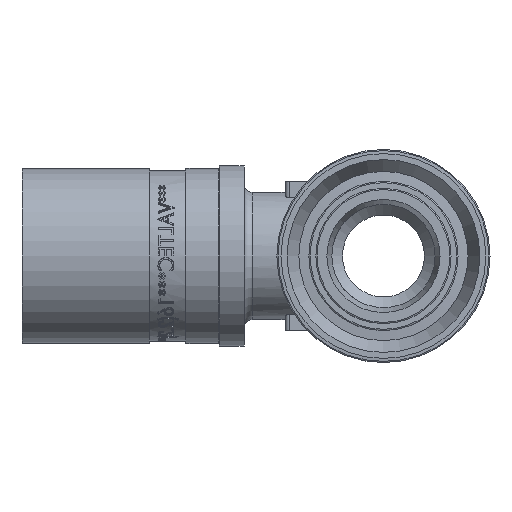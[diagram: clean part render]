
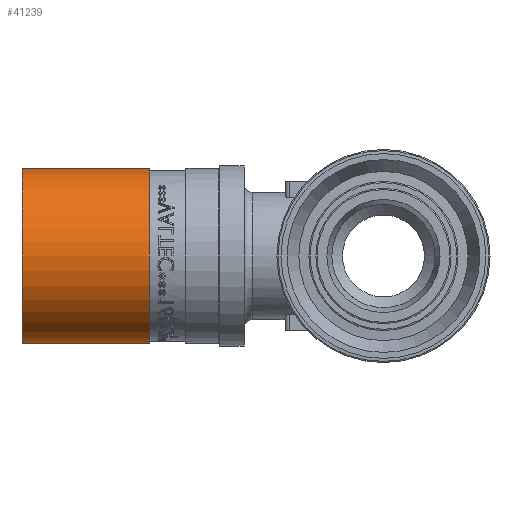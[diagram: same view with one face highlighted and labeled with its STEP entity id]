
A CAD part, left-side view. The second image highlights one B-rep face of the part: STEP entity #41239.
In plain terms, the highlighted cylindrical face has radius 10.7 mm (diameter 21.401 mm), a full revolution.
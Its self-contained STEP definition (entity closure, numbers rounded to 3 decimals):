
#392=CYLINDRICAL_SURFACE('',#43432,10.7);
#6013=FACE_OUTER_BOUND('',#8454,.T.);
#8454=EDGE_LOOP('',(#32923,#32924,#32925,#32926,#32927,#32928));
#11355=LINE('',#70645,#14285);
#14285=VECTOR('',#47857,10.7);
#16112=CIRCLE('',#43410,10.7);
#16113=CIRCLE('',#43411,10.7);
#16124=CIRCLE('',#43430,10.7);
#16125=CIRCLE('',#43431,10.7);
#18645=VERTEX_POINT('',#70603);
#18646=VERTEX_POINT('',#70604);
#18657=VERTEX_POINT('',#70640);
#18658=VERTEX_POINT('',#70641);
#23831=EDGE_CURVE('',#18645,#18646,#16112,.T.);
#23832=EDGE_CURVE('',#18646,#18645,#16113,.T.);
#23848=EDGE_CURVE('',#18657,#18658,#16124,.T.);
#23849=EDGE_CURVE('',#18658,#18657,#16125,.T.);
#23850=EDGE_CURVE('',#18646,#18658,#11355,.T.);
#32923=ORIENTED_EDGE('',*,*,#23831,.F.);
#32924=ORIENTED_EDGE('',*,*,#23832,.F.);
#32925=ORIENTED_EDGE('',*,*,#23850,.T.);
#32926=ORIENTED_EDGE('',*,*,#23849,.T.);
#32927=ORIENTED_EDGE('',*,*,#23848,.T.);
#32928=ORIENTED_EDGE('',*,*,#23850,.F.);
#41239=ADVANCED_FACE('',(#6013),#392,.T.);
#43410=AXIS2_PLACEMENT_3D('',#70605,#47806,#47807);
#43411=AXIS2_PLACEMENT_3D('',#70606,#47808,#47809);
#43430=AXIS2_PLACEMENT_3D('',#70642,#47851,#47852);
#43431=AXIS2_PLACEMENT_3D('',#70643,#47853,#47854);
#43432=AXIS2_PLACEMENT_3D('',#70644,#47855,#47856);
#47806=DIRECTION('center_axis',(0.,-1.,0.));
#47807=DIRECTION('ref_axis',(1.,0.,0.));
#47808=DIRECTION('center_axis',(0.,-1.,0.));
#47809=DIRECTION('ref_axis',(1.,0.,0.));
#47851=DIRECTION('center_axis',(0.,-1.,0.));
#47852=DIRECTION('ref_axis',(1.,0.,0.));
#47853=DIRECTION('center_axis',(0.,-1.,0.));
#47854=DIRECTION('ref_axis',(1.,0.,0.));
#47855=DIRECTION('center_axis',(0.,-1.,0.));
#47856=DIRECTION('ref_axis',(1.,0.,0.));
#47857=DIRECTION('',(0.,1.,0.));
#70603=CARTESIAN_POINT('',(10.7,28.6,0.));
#70604=CARTESIAN_POINT('',(-10.7,28.6,0.));
#70605=CARTESIAN_POINT('Origin',(0.,28.6,0.));
#70606=CARTESIAN_POINT('Origin',(0.,28.6,0.));
#70640=CARTESIAN_POINT('',(10.7,44.1,0.));
#70641=CARTESIAN_POINT('',(-10.7,44.1,0.));
#70642=CARTESIAN_POINT('Origin',(0.,44.1,0.));
#70643=CARTESIAN_POINT('Origin',(0.,44.1,0.));
#70644=CARTESIAN_POINT('Origin',(0.,36.35,0.));
#70645=CARTESIAN_POINT('',(-10.7,36.35,0.));
